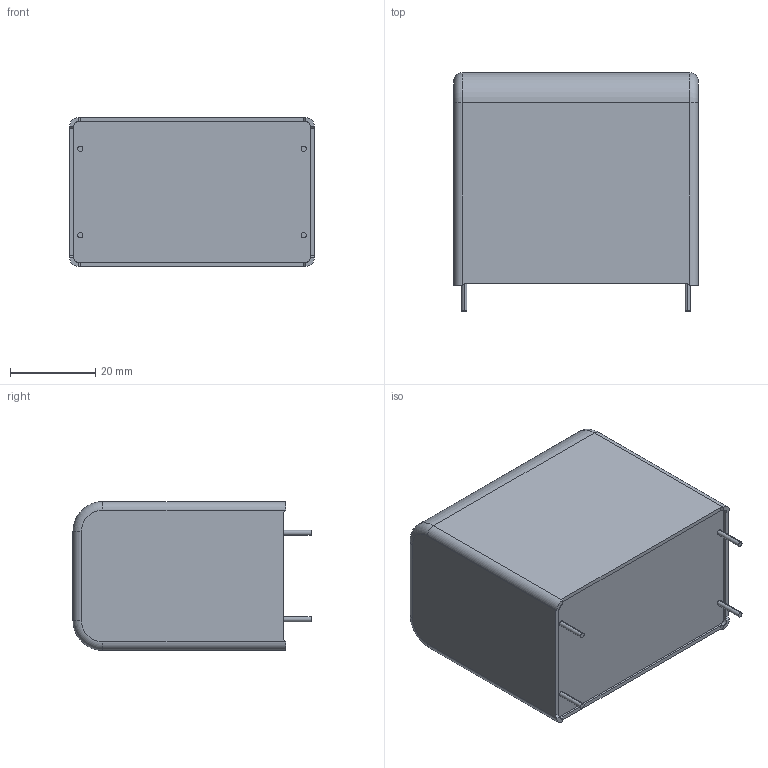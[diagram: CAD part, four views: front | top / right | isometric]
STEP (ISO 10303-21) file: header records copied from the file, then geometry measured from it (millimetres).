
FILE_DESCRIPTION (( 'STEP AP203' ), '1' );
FILE_NAME ('DC_Link_35x50x57.5_4pins20.3.step', '2017-04-03T16:00:15', ( 'work' ), ( 'Hewlett-Packard Company' ), 'SwSTEP 2.0', 'SolidWorks 2017', '' );
FILE_SCHEMA (( 'CONFIG_CONTROL_DESIGN' ));
Length unit declared in the file: millimetre
Products named in the file (1): DC_Link_35x50x57.5_4pins20.3
Bounding box: 57.5 x 56 x 35 mm (x, y, z)
Volume: 97309.5 mm3; surface area: 12776.6 mm2
Topology: 1 solids, 1 shells, 122 faces, 303 edges, 194 vertices
Faces by surface type: plane 82, cylinder 20, bspline 16, torus 4
Entity records: 4348 total; most frequent: CARTESIAN_POINT 1444, ORIENTED_EDGE 606, DIRECTION 529, EDGE_CURVE 303, VECTOR 227, LINE 227, VERTEX_POINT 194, AXIS2_PLACEMENT_3D 151
